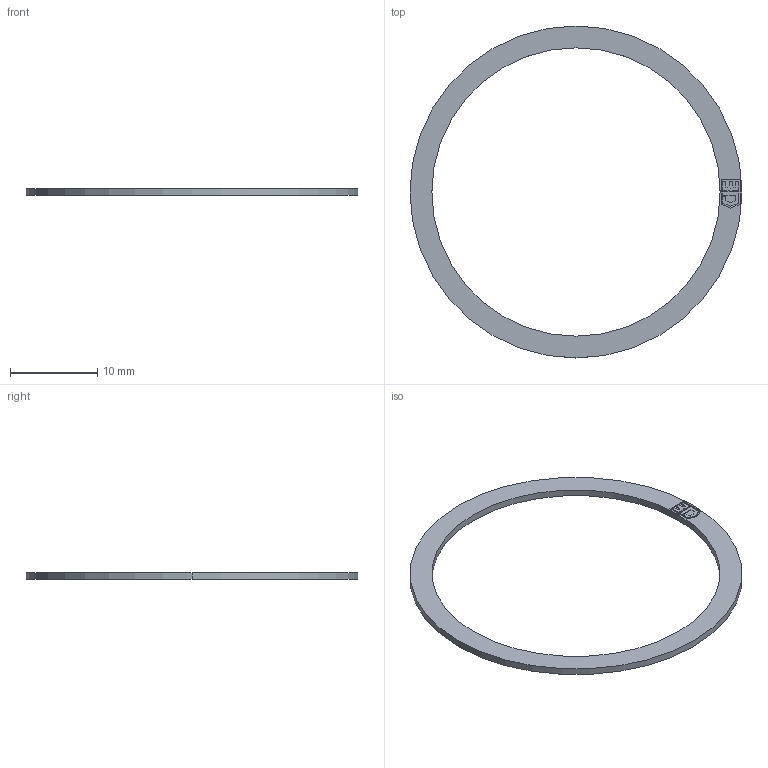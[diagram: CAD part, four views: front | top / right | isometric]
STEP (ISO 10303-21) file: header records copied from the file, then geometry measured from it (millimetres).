
FILE_DESCRIPTION (( 'STEP AP203' ), '1' );
FILE_NAME ('DM340-33.0.STEP', '2007-02-21T11:58:37', ( ' ' ), ( '' ), 'SwSTEP 2.0', 'SolidWorks 2005278', '' );
FILE_SCHEMA (( 'CONFIG_CONTROL_DESIGN' ));
Length unit declared in the file: millimetre
Products named in the file (1): DM340-33.0
Bounding box: 38 x 38 x 0.8 mm (x, y, z)
Volume: 222.7 mm3; surface area: 738.9 mm2
Topology: 1 solids, 1 shells, 43 faces, 114 edges, 76 vertices
Faces by surface type: plane 39, cylinder 4
Entity records: 1397 total; most frequent: CARTESIAN_POINT 234, ORIENTED_EDGE 228, DIRECTION 210, EDGE_CURVE 114, VECTOR 106, LINE 106, VERTEX_POINT 76, AXIS2_PLACEMENT_3D 52
